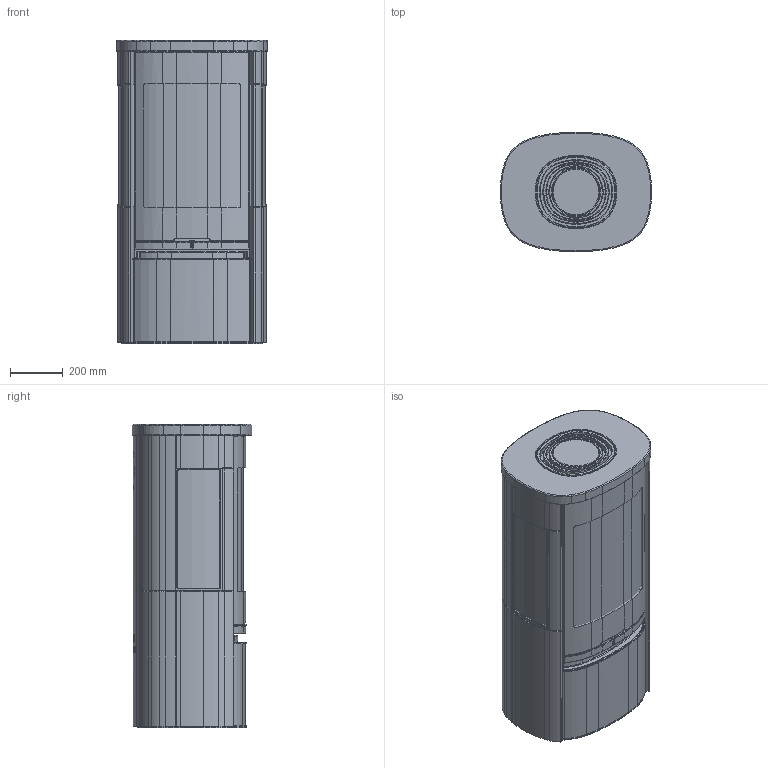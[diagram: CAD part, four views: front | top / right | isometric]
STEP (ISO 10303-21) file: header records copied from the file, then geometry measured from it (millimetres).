
FILE_DESCRIPTION(/* description */ ('Unknown'),/* implementation_level */ '2;1');
FILE_NAME(/* name */ 'DSN1111572_0_asm',/* time_stamp */ '2025-02-28T10:38:05+01:00',/* author */ ('Unknown'),/* organization */ ('NIBE AB'),/* preprocessor_version */ 'ST-DEVELOPER v18.102',/* originating_system */ 'Solid Edge',/* authorisation */ 'Unknown');
FILE_SCHEMA (('CONFIG_CONTROL_DESIGN','AP203_CONFIGURATION_CONTROLLED_3D_DESIGN_OF_MECHANICAL_PARTS_AND_ASSEMBLIES_MIM_LF { 1 0 10303 203 3 1 4 }'));
Products named in the file (15): DSN1111572; DSN1110949; DSN1111452; DSN1110955; DSN1111481; DSN1111509; DSN1111619; DSN1111155; DSN1111118; DSN1111115; DSN1111098; DSN1111577; DSN1110998; DSN1111454; DSN1111618
Assembly tree (16 placements, depth 2):
  DSN1111572
    DSN1110949
    DSN1111452
    DSN1110955
    DSN1111481  x2
    DSN1111509  x2
    DSN1111619
    DSN1111155
    DSN1111118
    DSN1111115
    DSN1111098
    DSN1111577
    DSN1110998
    DSN1111454
    DSN1111618
Bounding box: 571.53 x 451.02 x 1145 mm (x, y, z)
Volume: 188954208.5 mm3; surface area: 10065729.5 mm2
Topology: 16 solids, 16 shells, 1811 faces, 4626 edges, 2871 vertices
Faces by surface type: plane 511, cylinder 484, bspline 366, torus 218, cone 210, sphere 22
Full cylindrical faces by diameter (mm): 5 x5, 176.4 x1, 180.592 x1, 213.2 x1
Entity records: 86399 total; most frequent: CARTESIAN_POINT 40055, ORIENTED_EDGE 9076, DIRECTION 8294, EDGE_CURVE 4538, AXIS2_PLACEMENT_3D 3265, VERTEX_POINT 2841, FACE_BOUND 1897, EDGE_LOOP 1896
